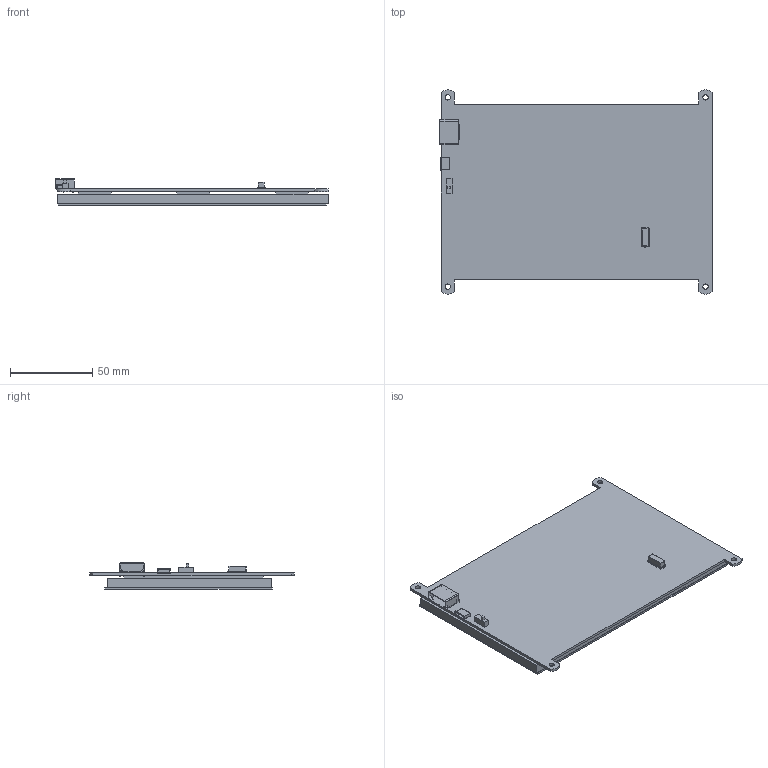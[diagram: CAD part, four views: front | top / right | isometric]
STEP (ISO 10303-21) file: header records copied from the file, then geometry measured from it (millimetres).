
FILE_DESCRIPTION((''),'2;1');
FILE_NAME('ASSEMBLY_ASM','2016-09-09T',('Administrator'),(''),'PRO/ENGINEER BY PARAMETRIC TECHNOLOGY CORPORATION, 2009440','PRO/ENGINEER BY PARAMETRIC TECHNOLOGY CORPORATION, 2009440','');
FILE_SCHEMA(('AUTOMOTIVE_DESIGN_CC2 { 1 2 10303 214 -1 1 5 2 }'));
Products named in the file (9): PCBA; SWITCH; FOAM; HDMI; JINGZHENS3; USB-CONNECTER; THICK-SCREEN; C-SCREEN; ASSEMBLY_ASM
Assembly tree (10 placements, depth 2):
  ASSEMBLY_ASM
    PCBA
    SWITCH
    FOAM  x3
    HDMI
    JINGZHENS3
    USB-CONNECTER
    THICK-SCREEN
    C-SCREEN
Bounding box: 165.73 x 124.23 x 16.15 mm (x, y, z)
Volume: 145726.7 mm3; surface area: 119670.4 mm2
Topology: 10 solids, 10 shells, 202 faces, 12718 edges, 22539 vertices
Faces by surface type: plane 166, cylinder 32, sphere 4
Entity records: 107248 total; most frequent: DIRECTION 15418, CARTESIAN_POINT 13244, PRESENTATION_STYLE_ASSIGNMENT 12565, STYLED_ITEM 12565, CURVE_STYLE 12539, TRIMMED_CURVE 12208, VECTOR 10434, LINE 10434
